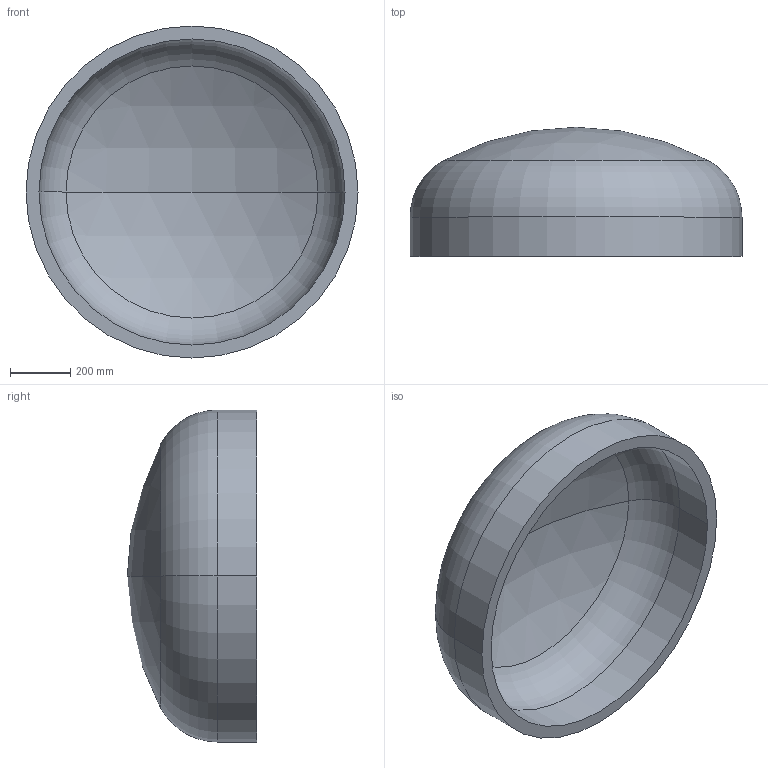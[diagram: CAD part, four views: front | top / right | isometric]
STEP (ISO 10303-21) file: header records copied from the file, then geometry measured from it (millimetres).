
FILE_DESCRIPTION (( 'STEP AP203' ), '1' );
FILE_NAME ('DIN 28013 Korbbogenform_-_Boden DIN 28013 - 1100 x 130 - I - s=43.step', '2016-07-01T09:08:15', ( '' ), ( '' ), 'SwSTEP 2.0', 'SolidWorks 2013', '' );
FILE_SCHEMA (( 'CONFIG_CONTROL_DESIGN' ));
Length unit declared in the file: millimetre
Products named in the file (1): DIN 28013 Korbbogenform_-_Boden DIN 28013 - 1100 x 130 - I - s=43
Bounding box: 1100 x 428.08 x 1100 mm (x, y, z)
Volume: 72400306.8 mm3; surface area: 3514116.4 mm2
Topology: 1 solids, 1 shells, 13 faces, 24 edges, 14 vertices
Faces by surface type: torus 4, cylinder 4, sphere 4, plane 1
Entity records: 407 total; most frequent: DIRECTION 72, CARTESIAN_POINT 52, ORIENTED_EDGE 48, AXIS2_PLACEMENT_3D 34, EDGE_CURVE 24, CIRCLE 20, VERTEX_POINT 14, EDGE_LOOP 14
